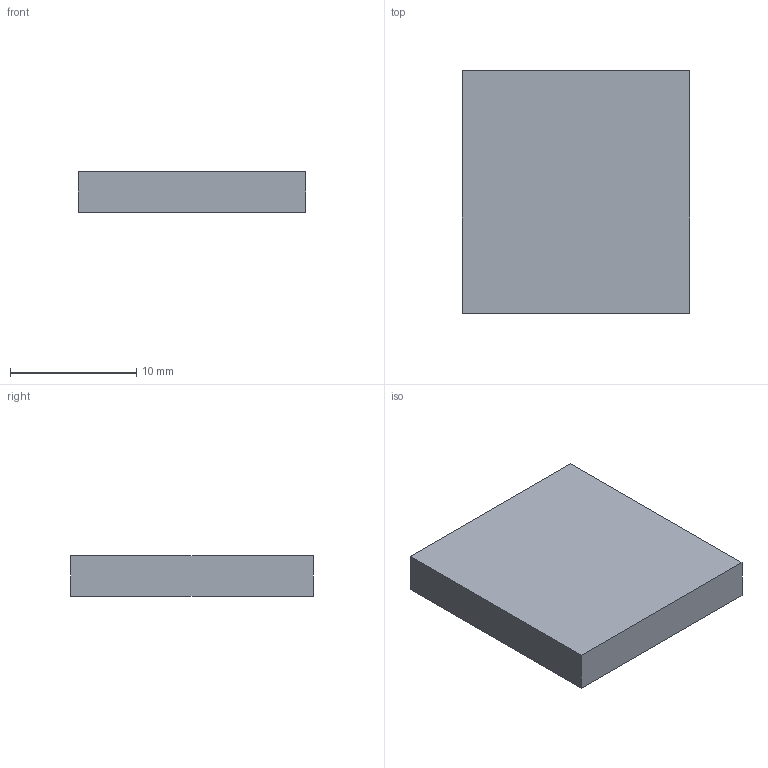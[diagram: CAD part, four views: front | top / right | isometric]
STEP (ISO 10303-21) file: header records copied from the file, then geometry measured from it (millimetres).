
FILE_DESCRIPTION(('Open CASCADE Model'),'2;1');
FILE_NAME('Open CASCADE Shape Model','2026-10-14T21:59:04',('Author'),( 'Open CASCADE'),'Open CASCADE STEP processor 7.8','Open CASCADE 7.8' ,'Unknown');
FILE_SCHEMA(('AUTOMOTIVE_DESIGN { 1 0 10303 214 1 1 1 1 }'));
Length unit declared in the file: millimetre
Products named in the file (2): Open CASCADE STEP translator 7.8 1; ENVELOPE
Assembly tree (1 placements, depth 2):
  Open CASCADE STEP translator 7.8 1
    ENVELOPE
Bounding box: 18 x 19.2 x 3.2 mm (x, y, z)
Volume: 1105.9 mm3; surface area: 929.3 mm2
Topology: 1 solids, 1 shells, 6 faces, 12 edges, 8 vertices
Faces by surface type: plane 6
Entity records: 349 total; most frequent: CARTESIAN_POINT 52, DIRECTION 52, LINE 36, VECTOR 36, ORIENTED_EDGE 24, PCURVE 24, DEFINITIONAL_REPRESENTATION 24, EDGE_CURVE 12
